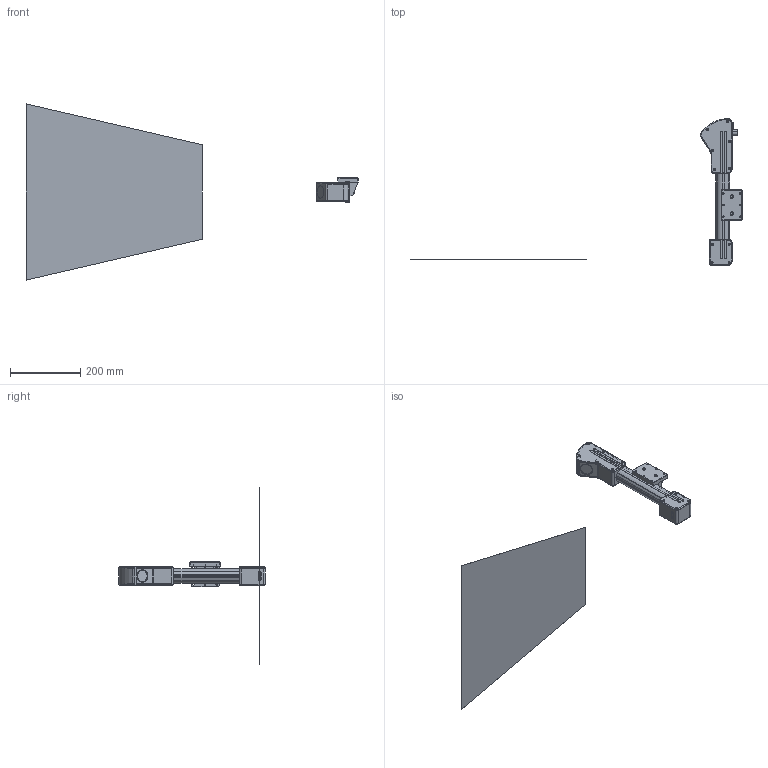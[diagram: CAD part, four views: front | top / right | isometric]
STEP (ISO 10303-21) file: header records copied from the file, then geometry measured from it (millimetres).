
FILE_DESCRIPTION (( 'STEP AP214' ), '1' );
FILE_NAME ('ÐÔ 627.325_500.000_Ñêàíåð áàëî÷íûé 500-êà äëÿ ñàéòà.STEP', '2019-07-02T10:56:30', ( 'test' ), ( 'Ref' ), 'SwSTEP 2.0', 'SolidWorks 2015', '' );
FILE_SCHEMA (( 'AUTOMOTIVE_DESIGN' ));
Length unit declared in the file: millimetre
Products named in the file (38): Âèíò_Ì5õ15; 膰豵鵨 1 700-罻; placementOutline_1_2; Ñòåêëî ìàëîå 23-8; placementOutline_1_3; Submodel-noModelForPart_Binder_09-0428-30-08_3952738181_1; Áîëò_Ì12õ40; Âèíò_Ì6õ20; Êðûøêà ìîäóëÿ ëàçåðà; ÐÔ 627.325_500.000_Ñêàíåð áàëî÷íûé 500-êà äëÿ ñàéòà; Submodel-FH12-32S-0.5SH_lpar_55_rpar__2555814880_part_FH12-32S-0.5SH_1; Êðîíøòåéí  êðåï¸æíûé çàäíèé 2; 妈眚 篑蜞眍忸黜 DIN 913 M5; DesignRootModel_1; Submodel-noModelForPart_FH12-06S-1SH_lpar_55_rpar__1599555785_1; Submodel-noModelForPart_FH12-32S-0.5SH_lpar_55_rpar__2555814880_1; Sliding block 10-M5; Submodel-1553488_341613795_part_PHOENIX_1553488_1; 膰豵鵨 錟谾譇 700-罻; uid__27_1; Êðûøêà  ïðàâàÿ 1 700-êà; Submodel-Binder_09-0428-30-08_3952738181_part_Binder_09-0428-30-08_1; Âèíò_Ì2õ6; Øàéáà ïðóæèííàÿ_12; Êðîíøòåéí äîïîëíèòåëüíûé 80-12; 嵑殧趌6; Âèíò_Ì3x8 â ïîòàé; placementOutline_1_4; Ñòåêëî Ä35; 性 625.75_ 袜觌彘赅_觏铒觇; Submodel-FH12-06S-1SH_lpar_55_rpar__1599555785_part_FH12-06S-1SH_1; Ïîëå âèäåíèÿ 500-êà áàëî÷íûé; RF627_80_0171 ïîñëåäíÿÿ; Submodel-noModelForPart_1553488_341613795_1; Ïðîôèëü _40X40_HR - 500-êà; Êðûøêà  ëåâàÿ 1 700-êà; placementOutline_1
Assembly tree (67 placements, depth 6):
  ÐÔ 627.325_500.000_Ñêàíåð áàëî÷íûé 500-êà äëÿ ñàéòà
    膰豵鵨 1 700-罻
    RF627_80_0171 ïîñëåäíÿÿ
      DesignRootModel_1
        uid__27_1
        Submodel-1553488_341613795_part_PHOENIX_1553488_1
          Submodel-noModelForPart_1553488_341613795_1
            placementOutline_1
        Submodel-Binder_09-0428-30-08_3952738181_part_Binder_09-0428-30-08_1
          Submodel-noModelForPart_Binder_09-0428-30-08_3952738181_1
            placementOutline_1_2
        Submodel-FH12-06S-1SH_lpar_55_rpar__1599555785_part_FH12-06S-1SH_1  x2
          Submodel-noModelForPart_FH12-06S-1SH_lpar_55_rpar__1599555785_1
            placementOutline_1_3
        Submodel-FH12-32S-0.5SH_lpar_55_rpar__2555814880_part_FH12-32S-0.5SH_1
          Submodel-noModelForPart_FH12-32S-0.5SH_lpar_55_rpar__2555814880_1
            placementOutline_1_4
    性 625.75_ 袜觌彘赅_觏铒觇
    嵑殧趌6
    膰豵鵨 錟谾譇 700-罻
    Êðûøêà  ïðàâàÿ 1 700-êà
    Êðûøêà  ëåâàÿ 1 700-êà
    Âèíò_Ì2õ6  x4
    Êðîíøòåéí  êðåï¸æíûé çàäíèé 2
    Êðûøêà ìîäóëÿ ëàçåðà
    妈眚 篑蜞眍忸黜 DIN 913 M5  x2
    Âèíò_Ì3x8 â ïîòàé  x16
    Âèíò_Ì5õ15  x6
    Sliding block 10-M5  x4
    Êðîíøòåéí äîïîëíèòåëüíûé 80-12
    Áîëò_Ì12õ40
    Áîëò_Ì12õ40
    Øàéáà ïðóæèííàÿ_12  x2
    Âèíò_Ì6õ20  x2
    Ñòåêëî Ä35
    Ïðîôèëü _40X40_HR - 500-êà
    Ñòåêëî ìàëîå 23-8
    Ïîëå âèäåíèÿ 500-êà áàëî÷íûé
Bounding box: 943 x 416.41 x 500 mm (x, y, z)
Volume: 636016.9 mm3; surface area: 693533.8 mm2
Topology: 59 solids, 59 shells, 2039 faces, 5140 edges, 3264 vertices
Faces by surface type: plane 1033, cylinder 598, cone 230, torus 94, bspline 84
Entity records: 54459 total; most frequent: CARTESIAN_POINT 12819, DIRECTION 7711, ORIENTED_EDGE 7656, EDGE_CURVE 3828, AXIS2_PLACEMENT_3D 2619, VERTEX_POINT 2491, VECTOR 2473, LINE 2473
